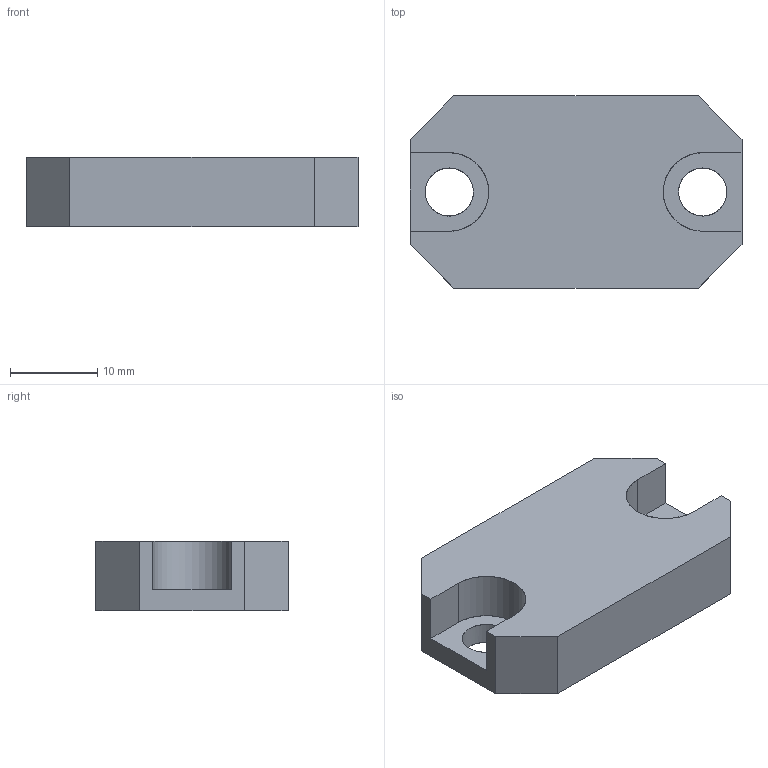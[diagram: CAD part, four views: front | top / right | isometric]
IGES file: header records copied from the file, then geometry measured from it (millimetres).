
Global section: file name: E:\UnigraphicsGraphicData\MISUMI_MOLD-PARTS\NX\3d_app16_00914_r00.igs; native system: NX V5.0; preprocessor: UGS NX IGES V5.0; author: MISUMI; date: 20101115.182447; units: millimetre
Bounding box: 38 x 22 x 8 mm (x, y, z)
Surface area: 2585 mm2 (no closed solid volume)
Topology: 0 solids, 0 shells, 20 faces, 148 edges, 144 vertices
Faces by surface type: bspline 20
